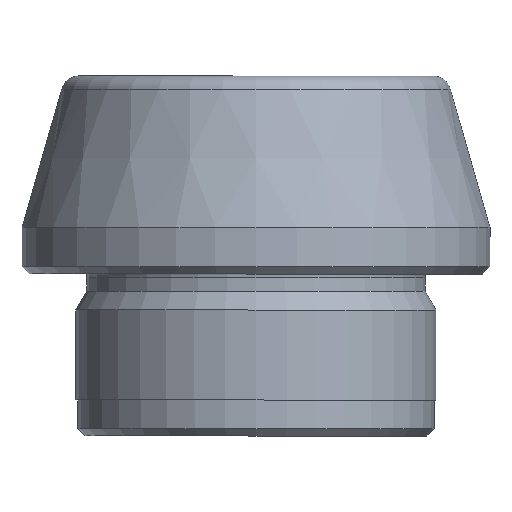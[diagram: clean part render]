
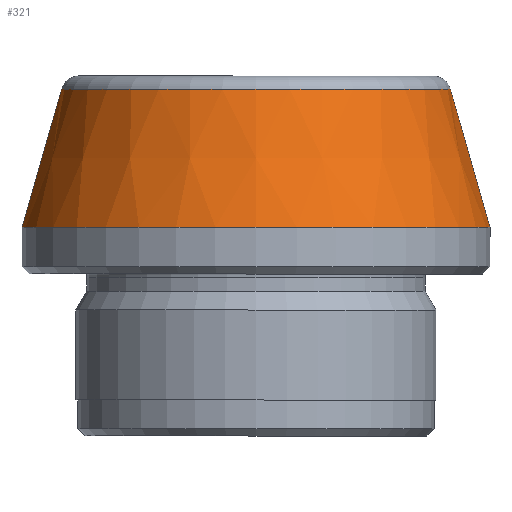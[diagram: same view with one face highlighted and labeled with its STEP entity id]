
A CAD part, left-side view. The second image highlights one B-rep face of the part: STEP entity #321.
In plain terms, the highlighted conical face has half-angle 16 degrees and reference radius 6.5 mm.
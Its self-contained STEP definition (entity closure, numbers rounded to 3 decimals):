
#1 = LINE ( 'NONE', #307, #194 ) ;
#30 = VECTOR ( 'NONE', #1017, 1000. ) ;
#61 = AXIS2_PLACEMENT_3D ( 'NONE', #1018, #1029, #440 ) ;
#65 = CIRCLE ( 'NONE', #201, 6.5 ) ;
#125 = DIRECTION ( 'NONE',  ( 0., -1., 0. ) ) ;
#146 = VERTEX_POINT ( 'NONE', #501 ) ;
#161 = CIRCLE ( 'NONE', #961, 5.4 ) ;
#194 = VECTOR ( 'NONE', #387, 1000. ) ;
#201 = AXIS2_PLACEMENT_3D ( 'NONE', #319, #880, #800 ) ;
#211 = ORIENTED_EDGE ( 'NONE', *, *, #367, .F. ) ;
#222 = ORIENTED_EDGE ( 'NONE', *, *, #991, .T. ) ;
#240 = CARTESIAN_POINT ( 'NONE',  ( 0., 5.4, 9.638 ) ) ;
#296 = CONICAL_SURFACE ( 'NONE', #61, 6.5, 0.279 ) ;
#307 = CARTESIAN_POINT ( 'NONE',  ( 0., -6.5, 5.8 ) ) ;
#309 = EDGE_CURVE ( 'NONE', #631, #441, #161, .T. ) ;
#319 = CARTESIAN_POINT ( 'NONE',  ( 0., 0., 5.8 ) ) ;
#321 = ADVANCED_FACE ( 'NONE', ( #772 ), #296, .T. ) ;
#366 = CARTESIAN_POINT ( 'NONE',  ( 0., -6.5, 5.8 ) ) ;
#367 = EDGE_CURVE ( 'NONE', #631, #786, #1, .T. ) ;
#374 = LINE ( 'NONE', #689, #30 ) ;
#387 = DIRECTION ( 'NONE',  ( 0., -0.276, -0.961 ) ) ;
#403 = ORIENTED_EDGE ( 'NONE', *, *, #409, .F. ) ;
#409 = EDGE_CURVE ( 'NONE', #786, #146, #65, .T. ) ;
#440 = DIRECTION ( 'NONE',  ( 0., 1., 0. ) ) ;
#441 = VERTEX_POINT ( 'NONE', #240 ) ;
#455 = CARTESIAN_POINT ( 'NONE',  ( 0., 0., 9.638 ) ) ;
#465 = DIRECTION ( 'NONE',  ( 0., 0., -1. ) ) ;
#501 = CARTESIAN_POINT ( 'NONE',  ( 0., 6.5, 5.8 ) ) ;
#506 = EDGE_LOOP ( 'NONE', ( #211, #799, #222, #403 ) ) ;
#631 = VERTEX_POINT ( 'NONE', #811 ) ;
#689 = CARTESIAN_POINT ( 'NONE',  ( 0., 6.5, 5.8 ) ) ;
#772 = FACE_OUTER_BOUND ( 'NONE', #506, .T. ) ;
#786 = VERTEX_POINT ( 'NONE', #366 ) ;
#799 = ORIENTED_EDGE ( 'NONE', *, *, #309, .T. ) ;
#800 = DIRECTION ( 'NONE',  ( 0., 1., 0. ) ) ;
#811 = CARTESIAN_POINT ( 'NONE',  ( 0., -5.4, 9.638 ) ) ;
#880 = DIRECTION ( 'NONE',  ( 0., 0., -1. ) ) ;
#961 = AXIS2_PLACEMENT_3D ( 'NONE', #455, #465, #125 ) ;
#991 = EDGE_CURVE ( 'NONE', #441, #146, #374, .T. ) ;
#1017 = DIRECTION ( 'NONE',  ( 0., 0.276, -0.961 ) ) ;
#1018 = CARTESIAN_POINT ( 'NONE',  ( 0., 0., 5.8 ) ) ;
#1029 = DIRECTION ( 'NONE',  ( 0., 0., -1. ) ) ;
